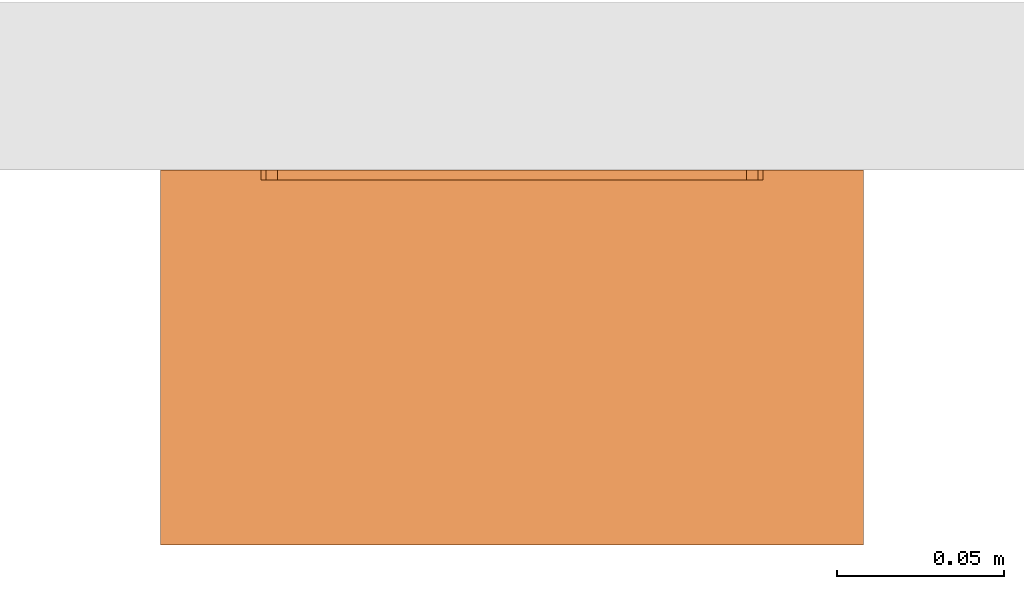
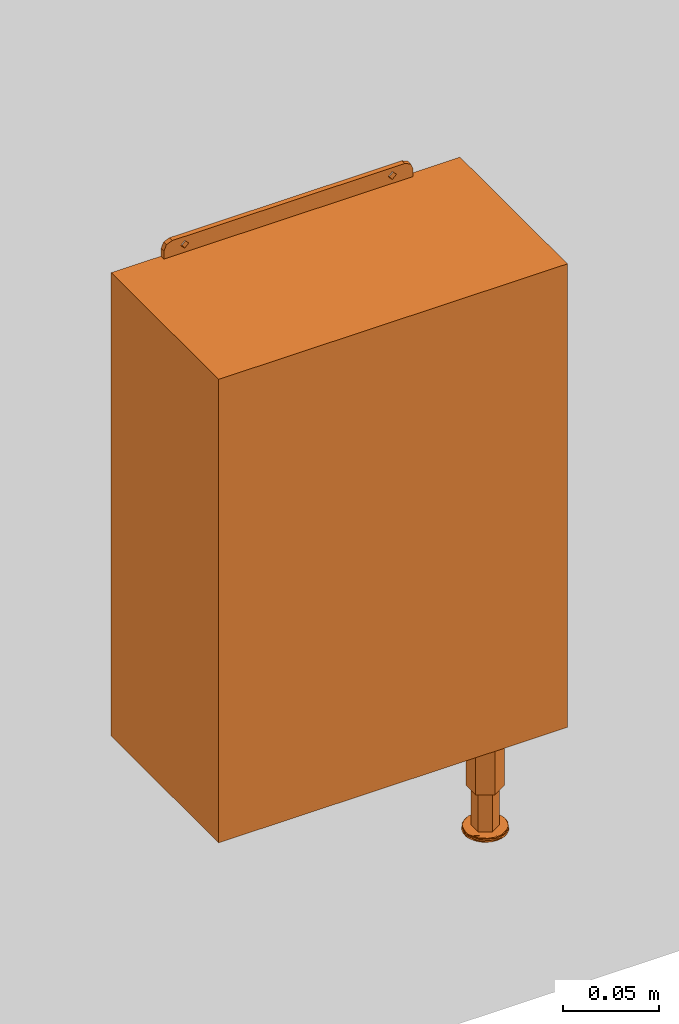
# One storey, part 2 of 2: 1 proxy.
"""IFC2X3 building model written with IfcOpenShell, lengths in millimetres."""

from ifc_helpers import new_model, entity, si_unit, converted_unit, derived_unit, direction, frame, origin, place, context, subcontext, project, spatial, faceted_brep, source, transform, mapped, material, material_list, element, save


model = new_model("IFC2X3")

# Units and contexts
model_context = context("Model", 3, precision=1e-05, world=origin(), true_north=direction((2.0, 6.12303176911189e-17, 1.0)))
context_of_model = context(None, 3, precision=1e-05, world=origin(), true_north=direction((2.0, 6.12303176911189e-17, 1.0)))
body_context = subcontext(model_context, "Body", "Model", "MODEL_VIEW")
ifc_project = project(units=[si_unit("LENGTHUNIT", "METRE", prefix="MILLI"), si_unit("AREAUNIT", "SQUARE_METRE"), si_unit("VOLUMEUNIT", "CUBIC_METRE"), converted_unit("PLANEANGLEUNIT", "DEGREE", entity("IfcRatioMeasure", 0.0174532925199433), si_unit("PLANEANGLEUNIT", "RADIAN"), dimensions=[0, 0, 0, 0, 0, 0, 0]), si_unit("MASSUNIT", "GRAM", prefix="KILO"), si_unit("TIMEUNIT", "SECOND"), si_unit("THERMODYNAMICTEMPERATUREUNIT", "KELVIN"), derived_unit("THERMALTRANSMITTANCEUNIT", [(si_unit("MASSUNIT", "GRAM", prefix="KILO"), 1), (si_unit("THERMODYNAMICTEMPERATUREUNIT", "KELVIN"), -1), (si_unit("TIMEUNIT", "SECOND"), -3)]), derived_unit("VOLUMETRICFLOWRATEUNIT", [(si_unit("LENGTHUNIT", "METRE"), 3), (si_unit("TIMEUNIT", "SECOND"), -1)]), si_unit("POWERUNIT", "WATT")], contexts=[model_context, context_of_model])

# Site, building, storey
site_placement = place(None, origin())
site = spatial("IfcSite", under=ifc_project, at=site_placement, Name="Default", CompositionType="ELEMENT")
building_placement = place(site_placement, origin())
building = spatial("IfcBuilding", under=site, at=building_placement, CompositionType="ELEMENT")
storey_placement = place(building_placement, origin())
storey = spatial("IfcBuildingStorey", under=building, at=storey_placement, Name="Level 1", CompositionType="ELEMENT", Elevation=0.0)

# Proxy
ifc_material_1 = material(Name="Chrome")
ifc_material_2 = material(Name="Stainless Steel")
ifc_material_list = material_list([ifc_material_1, ifc_material_2])
shared_shape = source(origin(), body_context, "Body", "Brep", [
    faceted_brep([(-70.0, -88.8264248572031, -2.67064943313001e-09), (-70.0, -86.8749999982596, -2.67064943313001e-09), (-71.9514248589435, -86.8749999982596, -2.67064943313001e-09), (-68.0485751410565, -86.8749999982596, -2.67064943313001e-09), (-70.0, -84.9235751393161, -2.67064943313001e-09), (-71.093349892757, -86.8749999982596, -4.01676436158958), (-70.0, -86.8749999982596, -4.01676436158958), (-70.0, -87.9683498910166, -4.01676436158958), (-70.0, -85.7816501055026, -4.01676436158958), (-68.906650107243, -86.8749999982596, -4.01676436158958), (-71.4132631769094, -86.8749999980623, -3.91481562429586), (-71.3510293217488, -87.6807037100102, -3.73883580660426), (-71.3049256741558, -86.0179010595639, -3.75846821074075), (-70.0, -85.4081058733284, -3.87150095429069), (-70.0, -88.1551220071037, -3.94413265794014), (-71.6441612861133, -86.8749999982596, -3.51203871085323), (-70.0, -85.2308387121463, -3.51203871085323), (-70.0, -85.2977079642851, -3.64763614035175), (-70.0, -85.6428779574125, -3.9627988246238), (-70.0, -88.5191612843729, -3.51203871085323), (-70.0, -88.3418941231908, -3.87150095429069), (-70.0, -88.4305277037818, -3.69176983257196), (-70.0, -88.4522920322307, -3.64763614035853), (-70.0, -88.1071220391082, -3.96279882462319), (-68.5867368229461, -86.8749999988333, -3.91481562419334), (-68.6489706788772, -86.0692962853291, -3.738835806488), (-68.6950743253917, -87.7320989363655, -3.75846821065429), (-68.3558387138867, -86.8749999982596, -3.51203871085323)], [[[0, 1, 2]], [[0, 3, 1]], [[4, 1, 3]], [[4, 2, 1]], [[5, 6, 7]], [[6, 5, 8]], [[9, 6, 8]], [[6, 9, 7]], [[10, 11, 12]], [[10, 12, 13]], [[5, 14, 10]], [[15, 16, 17]], [[13, 18, 10]], [[15, 12, 11]], [[17, 12, 15]], [[15, 11, 19]], [[11, 10, 20]], [[11, 20, 21, 22, 19]], [[8, 5, 18]], [[12, 17, 13]], [[5, 10, 18]], [[5, 7, 23, 14]], [[14, 20, 10]], [[24, 25, 26]], [[24, 26, 20]], [[24, 8, 18, 13]], [[27, 19, 22]], [[24, 20, 14, 23]], [[27, 26, 25]], [[9, 8, 24]], [[22, 26, 27]], [[27, 25, 16]], [[25, 24, 13]], [[25, 13, 17, 16]], [[7, 9, 23]], [[26, 22, 21, 20]], [[9, 24, 23]], [[16, 15, 2, 4]], [[2, 15, 19, 0]], [[19, 27, 3, 0]], [[3, 27, 16, 4]]]),
    faceted_brep([(70.0, -96.8749999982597, -2.67073718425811e-09), (61.3397459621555, -91.8749999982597, -2.67074514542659e-09), (61.3397459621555, -91.8749999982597, -40.0), (70.0, -96.8749999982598, -40.0), (61.3397459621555, -81.8749999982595, -2.67076106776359e-09), (61.3397459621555, -81.8749999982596, -40.0), (70.0, -76.8749999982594, -2.67076902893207e-09), (70.0, -76.8749999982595, -40.0), (78.6602540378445, -81.8749999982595, -2.67076106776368e-09), (78.6602540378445, -81.8749999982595, -40.0), (78.6602540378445, -91.8749999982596, -2.67074514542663e-09), (78.6602540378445, -91.8749999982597, -40.0), (70.0, -79.3729215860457, -40.0), (76.4969904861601, -83.1239607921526, -40.0), (76.4969904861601, -90.6260392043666, -40.0), (70.0, -94.3770784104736, -40.0), (63.5030095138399, -90.6260392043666, -40.0), (63.5030095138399, -83.1239607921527, -40.0), (70.0, -77.9018201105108, -65.0), (70.0, -75.3698646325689, -65.0), (67.5090651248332, -76.8080065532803, -65.0), (65.0181302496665, -78.2461484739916, -65.0), (62.5271953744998, -79.684290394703, -65.0), (60.036260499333, -81.1224323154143, -65.0), (62.2289982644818, -82.3884100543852, -65.0), (70.0, -79.3729215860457, -65.0), (77.7710017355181, -82.3884100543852, -65.0), (79.9637395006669, -81.1224323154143, -65.0), (77.4728046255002, -79.6842903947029, -65.0), (74.9818697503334, -78.2461484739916, -65.0), (72.4909348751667, -76.8080065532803, -65.0), (62.2289982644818, -91.3615899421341, -65.0), (60.036260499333, -83.998716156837, -65.0), (60.036260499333, -86.8749999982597, -65.0), (60.036260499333, -89.7512838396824, -65.0), (60.036260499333, -92.6275676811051, -65.0), (70.0, -95.8481798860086, -65.0), (62.5271953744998, -94.0657096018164, -65.0), (65.0181302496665, -95.5038515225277, -65.0), (67.5090651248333, -96.9419934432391, -65.0), (70.0, -98.3801353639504, -65.0), (72.4909348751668, -96.9419934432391, -65.0), (74.9818697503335, -95.5038515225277, -65.0), (77.4728046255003, -94.0657096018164, -65.0), (79.963739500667, -92.627567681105, -65.0), (77.7710017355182, -91.3615899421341, -65.0), (79.963739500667, -89.7512838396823, -65.0), (79.9637395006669, -86.8749999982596, -65.0), (79.9637395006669, -83.9987161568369, -65.0), (76.4969904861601, -83.1239607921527, -65.0), (76.4969904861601, -90.6260392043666, -65.0), (70.0, -94.3770784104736, -65.0), (63.5030095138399, -90.6260392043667, -65.0), (63.5030095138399, -83.1239607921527, -65.0), (61.0634106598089, -95.0979239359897, -65.2432443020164), (62.5203993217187, -77.5029520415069, -65.1317877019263), (60.2519353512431, -79.4234719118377, -65.3791368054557), (60.6619162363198, -79.5081805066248, -65.0822538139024), (65.2134526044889, -97.9978491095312, -65.2134998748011), (58.162911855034, -89.7342234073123, -65.2744541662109), (59.4335286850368, -92.5088079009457, -65.1224757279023), (70.0, -74.5093968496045, -65.7185117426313), (66.53973915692, -75.8423057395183, -65.9608458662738), (65.628837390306, -75.2922745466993, -65.5637542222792), (66.8712792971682, -75.1415739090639, -65.2426243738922), (63.8626574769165, -76.3057097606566, -65.3210379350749), (65.0273964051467, -76.0863588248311, -65.0759131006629), (59.1274272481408, -92.7091505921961, -65.4834083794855), (61.1852201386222, -78.0602201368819, -65.9608458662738), (59.3596194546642, -82.4676100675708, -65.9608458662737), (58.0048404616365, -86.6206823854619, -65.1359507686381), (58.9722884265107, -82.4728451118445, -65.0735799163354), (64.9703708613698, -98.1902718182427, -65.5696759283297), (63.8624796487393, -96.7987370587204, -65.9608458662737), (65.5926100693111, -97.5153805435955, -65.9608458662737), (66.5397391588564, -97.9076942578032, -65.9608458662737), (63.8624796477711, -76.9512629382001, -65.9608458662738), (58.0339559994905, -90.1360777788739, -65.6172675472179), (57.6594783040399, -86.7933258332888, -65.4866066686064), (57.5340187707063, -86.8749999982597, -65.9608458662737), (70.0, -99.0595559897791, -65.281425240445), (60.7017730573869, -95.056852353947, -65.5758195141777), (58.2377794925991, -83.6399451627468, -65.2961749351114), (70.0, -99.3409812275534, -65.9608458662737), (70.0, -99.2406031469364, -65.7185117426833), (70.0, -74.6904440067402, -65.281425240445), (59.3596194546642, -91.2823899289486, -65.9608458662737), (61.1852201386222, -95.6897798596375, -65.9608458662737), (70.0, -74.409018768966, -65.9608458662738), (78.9365893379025, -78.6520760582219, -65.2432443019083), (73.4602608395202, -75.8423057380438, -65.9608458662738), (74.7865473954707, -75.7521508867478, -65.2134998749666), (81.8370881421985, -84.0157765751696, -65.2744541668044), (80.5664713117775, -81.24119208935, -65.1224757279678), (73.4602608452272, -97.9076942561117, -65.9608458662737), (74.3711626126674, -98.4577254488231, -65.5637542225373), (73.1287207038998, -98.6084260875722, -65.2426243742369), (76.1373425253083, -97.4442902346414, -65.3210379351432), (74.9726035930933, -97.6636411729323, -65.0759131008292), (80.8725727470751, -81.0408493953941, -65.4834083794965), (79.7480646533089, -94.3265280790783, -65.3791368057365), (78.8147798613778, -95.6897798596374, -65.9608458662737), (80.6403805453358, -91.2823899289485, -65.9608458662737), (81.7622205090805, -90.1100548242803, -65.2961749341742), (82.3405216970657, -86.956674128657, -65.4866066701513), (81.9951595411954, -87.1293175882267, -65.1359507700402), (81.0277115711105, -91.2771548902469, -65.0735799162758), (81.9660439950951, -83.6139221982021, -65.617267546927), (82.4659812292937, -86.8749999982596, -65.9608458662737), (79.3380837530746, -94.2418195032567, -65.0822538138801), (75.0296291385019, -75.559728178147, -65.5696759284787), (76.137520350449, -76.9512629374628, -65.9608458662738), (74.4073899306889, -76.2346194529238, -65.9608458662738), (79.2982269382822, -78.6931476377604, -65.5758195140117), (77.4796006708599, -96.2470479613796, -65.1317877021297), (76.1375203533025, -96.7987370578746, -65.9608458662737), (80.6403805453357, -82.4676100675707, -65.9608458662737), (78.8147798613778, -78.0602201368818, -65.9608458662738), (61.1852201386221, -95.6897798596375, -67.008074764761), (63.8187152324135, -96.7806092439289, -67.008074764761), (66.5314667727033, -97.9042677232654, -67.008074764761), (70.0, -99.3409812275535, -67.008074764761), (57.5340187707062, -86.8749999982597, -67.008074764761), (58.4468191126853, -89.0786949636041, -67.008074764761), (59.3596194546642, -91.2823899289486, -67.008074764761), (70.0, -74.4090187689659, -67.0080747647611), (66.4522103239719, -75.8785613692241, -67.0080747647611), (65.592610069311, -76.2346194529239, -67.0080747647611), (63.818715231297, -76.969390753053, -67.0080747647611), (61.1852201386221, -78.0602201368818, -67.0080747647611), (59.3596194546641, -82.4676100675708, -67.0080747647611), (78.8147798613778, -78.0602201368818, -67.0080747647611), (76.1812847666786, -76.9693907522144, -67.0080747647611), (73.4685332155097, -75.8457322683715, -67.0080747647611), (82.4659812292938, -86.8749999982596, -67.008074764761), (81.5531808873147, -84.6713050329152, -67.0080747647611), (80.6403805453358, -82.4676100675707, -67.0080747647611), (73.5477896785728, -97.8714386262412, -67.008074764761), (74.407389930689, -97.5153805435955, -67.008074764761), (76.1812847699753, -96.7806092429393, -67.008074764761), (78.8147798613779, -95.6897798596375, -67.008074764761), (80.6403805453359, -91.2823899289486, -67.008074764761), (66.7411470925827, -77.2756692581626, -67.9932256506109), (62.4265546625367, -77.6662497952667, -67.8884155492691), (64.8242855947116, -75.9788456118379, -67.8028616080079), (67.1001270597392, -98.7215732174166, -67.6852578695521), (64.9983148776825, -98.1849837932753, -67.4392931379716), (70.0, -98.7041337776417, -67.8489536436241), (70.0, -99.0524372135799, -67.7046816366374), (63.4822941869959, -94.5928311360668, -67.9932256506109), (66.7411470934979, -96.4743307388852, -67.9932256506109), (62.4265546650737, -96.0837502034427, -67.8884155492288), (60.0573092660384, -92.6154151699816, -67.9932256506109), (62.6926586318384, -76.9130545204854, -67.4629879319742), (60.4147361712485, -79.3742222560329, -67.7108296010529), (58.0908702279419, -86.9265695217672, -67.8951971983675), (60.0573092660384, -84.0047924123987, -67.9932256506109), (60.0573092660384, -86.8749999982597, -67.9932256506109), (60.0573092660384, -89.7452075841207, -67.9932256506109), (58.8627004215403, -92.2273551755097, -67.4591152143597), (60.4147361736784, -94.3757777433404, -67.710829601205), (60.6619807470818, -95.0188607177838, -67.3865908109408), (57.7150682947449, -88.0984134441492, -67.4797994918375), (57.7770400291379, -84.8194977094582, -67.3762691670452), (58.139355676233, -84.3690388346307, -67.7556021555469), (62.4469250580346, -96.5306524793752, -67.6123378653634), (64.824285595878, -97.7711543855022, -67.8028616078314), (58.3291402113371, -89.8466161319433, -67.8169165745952), (65.7495251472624, -75.2782582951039, -67.4696617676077), (60.0573092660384, -81.1345848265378, -67.9932256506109), (59.1764531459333, -81.6570250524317, -67.8353982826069), (70.0, -74.6975627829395, -67.7046816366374), (60.0173207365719, -79.5091431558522, -67.3464776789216), (58.750577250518, -81.8705527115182, -67.536368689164), (67.2986867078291, -75.0436088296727, -67.7439202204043), (70.0, -98.3558303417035, -67.9932256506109), (70.0, -75.0458662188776, -67.8489536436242), (70.0, -75.3941696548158, -67.9932256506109), (63.4822941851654, -79.1571688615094, -67.9932256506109), (73.2588529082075, -96.4743307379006, -67.9932256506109), (77.5734453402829, -96.0837501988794, -67.8884155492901), (75.1757144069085, -97.7711543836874, -67.8028616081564), (81.1372995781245, -81.522644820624, -67.4591152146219), (79.5852638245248, -79.3742222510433, -67.7108296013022), (79.3380192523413, -78.7311392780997, -67.3865908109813), (72.8998729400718, -75.0284267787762, -67.6852578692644), (76.5177058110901, -79.1571688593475, -67.9932256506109), (73.258852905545, -77.2756692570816, -67.9932256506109), (77.5734453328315, -77.6662497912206, -67.8884155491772), (79.9426907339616, -81.1345848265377, -67.9932256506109), (77.553074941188, -77.2193475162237, -67.6123378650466), (75.0016851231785, -75.565016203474, -67.4392931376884), (81.9091297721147, -86.8234304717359, -67.8951971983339), (79.9426907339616, -89.7452075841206, -67.9932256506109), (79.9426907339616, -86.8749999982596, -67.9932256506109), (79.9426907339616, -84.0047924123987, -67.9932256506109), (77.3073413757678, -96.8369454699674, -67.4629879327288), (79.5852638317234, -94.37577773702, -67.7108296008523), (82.2849317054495, -85.6515865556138, -67.479799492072), (82.2229599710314, -88.9305022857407, -67.3762691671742), (81.86064432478, -89.3809611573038, -67.7556021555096), (74.2504748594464, -98.471741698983, -67.4696617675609), (79.9426907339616, -92.6154151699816, -67.9932256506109), (80.8235468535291, -92.0929749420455, -67.8353982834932), (81.6708597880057, -83.9033838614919, -67.8169165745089), (75.1757144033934, -75.9788456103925, -67.8028616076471), (79.9826792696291, -94.2408568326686, -67.3464776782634), (81.2494227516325, -91.8794472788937, -67.5363686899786), (72.7013132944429, -98.7063911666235, -67.7439202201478), (76.5177058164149, -94.5928311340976, -67.9932256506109), (70.0, -86.8749999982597, -67.9932256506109), (70.0, -86.8749999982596, -2.67073731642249e-09)], [[[0, 1, 2, 3]], [[1, 4, 5, 2]], [[4, 6, 7, 5]], [[6, 8, 9, 7]], [[8, 10, 11, 9]], [[10, 0, 3, 11]], [[7, 12, 5]], [[12, 7, 9]], [[9, 13, 12]], [[13, 9, 14]], [[11, 14, 9]], [[14, 11, 15]], [[3, 15, 11]], [[15, 3, 2]], [[16, 2, 5]], [[2, 16, 15]], [[17, 5, 12]], [[5, 17, 16]], [[18, 19, 20]], [[18, 20, 21]], [[18, 21, 22]], [[18, 22, 23]], [[18, 23, 24]], [[24, 25, 18]], [[26, 18, 25]], [[18, 26, 27]], [[18, 27, 28]], [[18, 28, 29]], [[18, 29, 30]], [[18, 30, 19]], [[31, 24, 23]], [[31, 23, 32]], [[31, 32, 33]], [[31, 33, 34]], [[31, 34, 35]], [[36, 31, 35]], [[36, 35, 37]], [[36, 37, 38]], [[36, 38, 39]], [[36, 39, 40]], [[36, 40, 41]], [[36, 41, 42]], [[36, 42, 43]], [[36, 43, 44]], [[36, 44, 45]], [[45, 44, 46]], [[45, 46, 47]], [[45, 47, 48]], [[45, 48, 27]], [[45, 27, 26]], [[25, 49, 26]], [[50, 26, 49]], [[26, 50, 45]], [[51, 45, 50]], [[45, 51, 36]], [[31, 36, 51]], [[51, 52, 31]], [[52, 53, 24]], [[24, 31, 52]], [[25, 24, 53]], [[54, 38, 37]], [[55, 56, 57]], [[58, 40, 39, 38]], [[59, 60, 34]], [[61, 62, 63]], [[64, 65, 66]], [[67, 54, 60]], [[56, 68, 69]], [[65, 64, 63]], [[70, 32, 71]], [[72, 73, 74, 75]], [[76, 68, 65]], [[58, 38, 54]], [[77, 78, 79]], [[57, 56, 71]], [[80, 58, 72]], [[37, 60, 54]], [[81, 54, 67]], [[82, 78, 70]], [[75, 83, 84, 80]], [[65, 68, 56]], [[64, 19, 85]], [[72, 54, 81]], [[56, 69, 82]], [[82, 71, 56]], [[77, 86, 67]], [[78, 69, 79]], [[33, 32, 70, 34]], [[60, 37, 35]], [[67, 60, 59]], [[77, 67, 59]], [[81, 86, 87]], [[60, 35, 34]], [[78, 77, 59]], [[79, 86, 77]], [[70, 78, 59]], [[69, 78, 82]], [[34, 70, 59]], [[71, 32, 23]], [[71, 23, 57]], [[70, 71, 82]], [[57, 23, 22]], [[21, 66, 55]], [[86, 81, 67]], [[55, 22, 21]], [[73, 72, 81]], [[81, 87, 73]], [[80, 72, 75]], [[72, 58, 54]], [[63, 76, 65]], [[66, 21, 20]], [[20, 19, 64]], [[55, 66, 65]], [[64, 66, 20]], [[61, 63, 85]], [[62, 61, 88]], [[56, 55, 65]], [[55, 57, 22]], [[63, 64, 85]], [[76, 63, 62]], [[40, 58, 80]], [[89, 29, 28]], [[90, 88, 61, 85]], [[91, 19, 30, 29]], [[92, 93, 48]], [[84, 94, 95]], [[96, 97, 98]], [[99, 89, 93]], [[100, 101, 102]], [[97, 96, 95]], [[103, 104, 105]], [[105, 46, 106]], [[101, 100, 97]], [[91, 29, 89]], [[107, 104, 108]], [[109, 100, 106]], [[85, 91, 110]], [[110, 111, 112, 90]], [[113, 89, 99]], [[114, 100, 109]], [[28, 93, 89]], [[95, 115, 97]], [[96, 40, 80]], [[110, 89, 113]], [[100, 102, 103]], [[103, 106, 100]], [[107, 116, 99]], [[104, 102, 108]], [[47, 46, 105, 48]], [[93, 28, 27]], [[99, 93, 92]], [[107, 99, 92]], [[113, 116, 117]], [[93, 27, 48]], [[104, 107, 92]], [[108, 116, 107]], [[105, 104, 92]], [[102, 104, 103]], [[48, 105, 92]], [[106, 46, 44]], [[106, 44, 109]], [[105, 106, 103]], [[109, 44, 43]], [[42, 98, 114]], [[116, 113, 99]], [[114, 43, 42]], [[111, 110, 113]], [[113, 117, 111]], [[85, 110, 90]], [[110, 91, 89]], [[98, 42, 41]], [[115, 101, 97]], [[41, 40, 96]], [[114, 98, 97]], [[96, 98, 41]], [[84, 95, 80]], [[94, 84, 83]], [[100, 114, 97]], [[114, 109, 43]], [[95, 96, 80]], [[115, 95, 94]], [[19, 91, 85]], [[118, 119, 120, 121, 83, 75, 74, 73, 87]], [[86, 79, 122, 123, 124, 118, 87]], [[68, 76, 62, 88, 125, 126, 127, 128, 129]], [[79, 69, 68, 129, 130, 122]], [[131, 132, 133, 125, 88, 90, 112, 111, 117]], [[116, 108, 134, 135, 136, 131, 117]], [[101, 115, 94, 83, 121, 137, 138, 139, 140]], [[108, 102, 101, 140, 141, 134]], [[142, 143, 144]], [[145, 120, 146]], [[121, 120, 145]], [[145, 147, 148]], [[149, 150, 151, 152]], [[153, 143, 154]], [[155, 156, 157, 158]], [[159, 160, 161]], [[162, 163, 164]], [[165, 151, 166]], [[160, 167, 152]], [[168, 144, 153]], [[153, 128, 168]], [[169, 170, 143]], [[151, 150, 166]], [[160, 151, 165]], [[170, 156, 164]], [[155, 158, 167]], [[125, 171, 168]], [[165, 146, 119]], [[172, 153, 154]], [[156, 170, 169]], [[165, 161, 160]], [[173, 170, 164]], [[163, 162, 122]], [[164, 163, 173]], [[152, 151, 160]], [[162, 123, 122]], [[154, 173, 172]], [[146, 165, 166]], [[150, 147, 166]], [[145, 146, 166]], [[118, 161, 119]], [[118, 124, 161]], [[159, 161, 124]], [[159, 124, 123]], [[167, 160, 159]], [[162, 167, 159]], [[123, 162, 159]], [[155, 162, 164]], [[122, 130, 163]], [[173, 154, 170]], [[163, 130, 173]], [[172, 130, 129]], [[130, 172, 173]], [[153, 172, 129]], [[168, 128, 127, 126, 125]], [[153, 144, 143]], [[143, 170, 154]], [[162, 155, 167]], [[174, 144, 168]], [[146, 120, 119]], [[161, 165, 119]], [[145, 148, 121]], [[147, 150, 175]], [[166, 147, 145]], [[168, 171, 174]], [[174, 171, 176, 177]], [[174, 142, 144]], [[169, 143, 142, 178]], [[142, 174, 177]], [[158, 152, 167]], [[156, 155, 164]], [[153, 129, 128]], [[179, 180, 181]], [[182, 183, 184]], [[125, 133, 185]], [[185, 176, 171]], [[186, 187, 188, 189]], [[190, 191, 132]], [[192, 193, 194, 195]], [[196, 180, 197]], [[198, 199, 200]], [[121, 148, 201]], [[201, 181, 196]], [[196, 139, 201]], [[202, 203, 180]], [[203, 193, 200]], [[183, 188, 190]], [[183, 204, 189]], [[192, 195, 204]], [[185, 133, 191]], [[188, 187, 205]], [[206, 196, 197]], [[193, 203, 202]], [[190, 184, 183]], [[207, 203, 200]], [[199, 198, 134]], [[200, 199, 207]], [[190, 188, 205]], [[198, 135, 134]], [[197, 207, 206]], [[189, 188, 183]], [[191, 190, 205]], [[187, 176, 205]], [[185, 191, 205]], [[131, 184, 132]], [[131, 136, 184]], [[182, 184, 136]], [[182, 136, 135]], [[204, 183, 182]], [[198, 204, 182]], [[135, 198, 182]], [[192, 198, 200]], [[134, 141, 199]], [[207, 197, 203]], [[199, 141, 207]], [[206, 141, 140]], [[141, 206, 207]], [[196, 206, 140]], [[201, 139, 138, 137, 121]], [[196, 181, 180]], [[180, 203, 197]], [[198, 192, 204]], [[208, 181, 201]], [[191, 133, 132]], [[184, 190, 132]], [[185, 171, 125]], [[176, 187, 177]], [[205, 176, 185]], [[201, 148, 208]], [[208, 148, 147, 175]], [[208, 179, 181]], [[202, 180, 179, 209]], [[179, 208, 175]], [[195, 189, 204]], [[193, 192, 200]], [[196, 140, 139]], [[210, 169, 178]], [[210, 178, 142]], [[210, 142, 177]], [[210, 177, 187]], [[210, 156, 169]], [[210, 157, 156]], [[210, 158, 157]], [[210, 152, 158]], [[210, 149, 152]], [[210, 150, 149]], [[210, 175, 150]], [[210, 187, 186]], [[210, 186, 189]], [[210, 189, 195]], [[210, 179, 175]], [[210, 209, 179]], [[210, 202, 209]], [[210, 195, 194]], [[210, 194, 193]], [[210, 193, 202]], [[211, 6, 4]], [[4, 1, 211]], [[1, 0, 211]], [[211, 8, 6]], [[0, 10, 211]], [[8, 211, 10]], [[15, 16, 52, 51]], [[16, 17, 53, 52]], [[17, 12, 25, 53]], [[12, 13, 49, 25]], [[13, 14, 50, 49]], [[14, 15, 51, 50]]]),
    faceted_brep([(75.0, -3.0, 300.0), (73.5355339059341, -3.0, 303.535533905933), (70.0, -3.0, 305.0), (65.0, -3.0, 300.0), (75.0, -3.0, 295.0), (62.5000000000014, -3.0, 302.5), (0.0, -3.0, 305.0), (60.0, -3.0, 300.0), (62.5000000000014, -3.0, 297.5), (-62.4999999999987, -3.0, 297.534640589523), (-60.0346405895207, -3.0, 300.0), (-62.4999999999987, -3.0, 302.465359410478), (-70.0, -3.0, 305.0), (-64.9653594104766, -3.0, 300.0), (-75.0, -3.0, 300.0), (-73.5355339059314, -3.0, 303.535533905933), (-75.0, -3.0, 295.0), (-75.0, 0.0, 300.0), (-73.5355339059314, 0.0, 303.535533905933), (-70.0, 0.0, 305.0), (-64.9653594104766, 0.0, 300.0), (-75.0, 0.0, 295.0), (-62.4999999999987, 0.0, 302.465359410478), (0.0, 0.0, 305.0), (-60.0346405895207, 0.0, 300.0), (-62.4999999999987, 0.0, 297.534640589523), (62.5000000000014, 0.0, 297.5), (60.0, 0.0, 300.0), (62.5000000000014, 0.0, 302.5), (70.0, 0.0, 305.0), (65.0, 0.0, 300.0), (75.0, 0.0, 300.0), (73.5355339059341, 0.0, 303.535533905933), (75.0, 0.0, 295.0)], [[[0, 1, 2]], [[0, 2, 3]], [[4, 0, 3]], [[3, 2, 5]], [[2, 6, 5]], [[7, 5, 6]], [[7, 6, 8]], [[9, 8, 6]], [[10, 9, 6]], [[6, 11, 10]], [[11, 6, 12]], [[11, 12, 13]], [[12, 14, 13]], [[14, 12, 15]], [[13, 14, 16]], [[4, 8, 16]], [[13, 16, 9]], [[16, 8, 9]], [[3, 8, 4]], [[17, 18, 19]], [[17, 19, 20]], [[21, 17, 20]], [[20, 19, 22]], [[19, 23, 22]], [[24, 22, 23]], [[24, 23, 25]], [[26, 25, 23]], [[27, 26, 23]], [[23, 28, 27]], [[28, 23, 29]], [[28, 29, 30]], [[29, 31, 30]], [[31, 29, 32]], [[30, 31, 33]], [[30, 33, 26]], [[33, 21, 26]], [[21, 25, 26]], [[20, 25, 21]], [[6, 2, 29, 23, 19, 12]], [[12, 19, 18, 15]], [[18, 17, 14, 15]], [[16, 14, 17, 21]], [[4, 16, 21, 33]], [[0, 4, 33, 31]], [[0, 31, 32, 1]], [[32, 29, 2, 1]], [[27, 28, 5, 7]], [[30, 3, 5, 28]], [[30, 26, 8, 3]], [[27, 7, 8, 26]], [[20, 22, 11, 13]], [[24, 10, 11, 22]], [[24, 25, 9, 10]], [[20, 13, 9, 25]]]),
    faceted_brep([(105.0, -112.0, 295.0), (-105.0, -112.0, 295.0), (-105.0, -112.0, 0.0), (105.0, -112.0, 0.0), (105.0, 0.0, 295.0), (105.0, 0.0, 0.0), (-105.0, 0.0, 0.0), (-105.0, 0.0, 295.0), (-105.0, -112.0, 295.0), (105.0, -112.0, 295.0), (105.0, 0.0, 295.0), (-105.0, 0.0, 295.0), (-105.0, -112.0, 0.0), (-105.0, -112.0, 295.0), (-105.0, 0.0, 295.0), (-105.0, 0.0, 0.0), (105.0, -112.0, 0.0), (-105.0, -112.0, 0.0), (-105.0, 0.0, 0.0), (105.0, 0.0, 0.0), (105.0, -112.0, 295.0), (105.0, -112.0, 0.0), (105.0, 0.0, 0.0), (105.0, 0.0, 295.0)], [[[0, 1, 2, 3]], [[4, 5, 6, 7]], [[8, 9, 10, 11]], [[12, 13, 14, 15]], [[16, 17, 18, 19]], [[20, 21, 22, 23]]]),
])
proxy_placement = place(storey_placement, frame((-0.747736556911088, 3952.69853342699, 256.377014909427)))
element("IfcBuildingElementProxy", 1, at=proxy_placement, inside=storey, material=ifc_material_list, Name="06-3106:06.3106 Dolphin Behind Mirror Soap Dispenser", ObjectType="06.3106 Dolphin Behind Mirror Soap Dispenser", CompositionType="ELEMENT", context=body_context, shape_type="MappedRepresentation", body=[
    mapped(shared_shape, transform((0.0, 0.0, 0.0), scale=1.0)),
])

save(model, "model.ifc")
